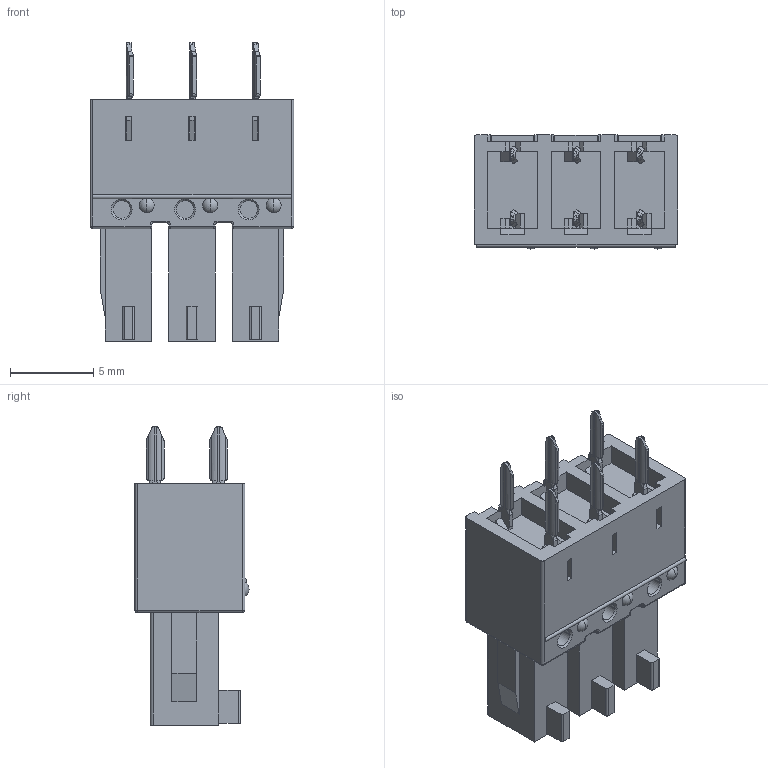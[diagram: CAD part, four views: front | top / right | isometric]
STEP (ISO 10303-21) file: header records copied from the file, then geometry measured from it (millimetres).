
FILE_DESCRIPTION((''),'2;1');
FILE_NAME('33','2019-04-18T',('zhenbing.lai'),(''),'CREO PARAMETRIC BY PTC INC, 2016260','CREO PARAMETRIC BY PTC INC, 2016260','');
FILE_SCHEMA(('CONFIG_CONTROL_DESIGN'));
Length unit declared in the file: millimetre
Products named in the file (1): 33
Bounding box: 12.22 x 6.85 x 17.9 mm (x, y, z)
Volume: 759.9 mm3; surface area: 975.1 mm2
Topology: 1 solids, 1 shells, 523 faces, 1455 edges, 939 vertices
Faces by surface type: plane 283, cylinder 106, bspline 80, torus 32, cone 12, sphere 10
Entity records: 19033 total; most frequent: CARTESIAN_POINT 6263, ORIENTED_EDGE 2890, DIRECTION 2307, EDGE_CURVE 1445, VERTEX_POINT 939, VECTOR 885, LINE 885, AXIS2_PLACEMENT_3D 711
